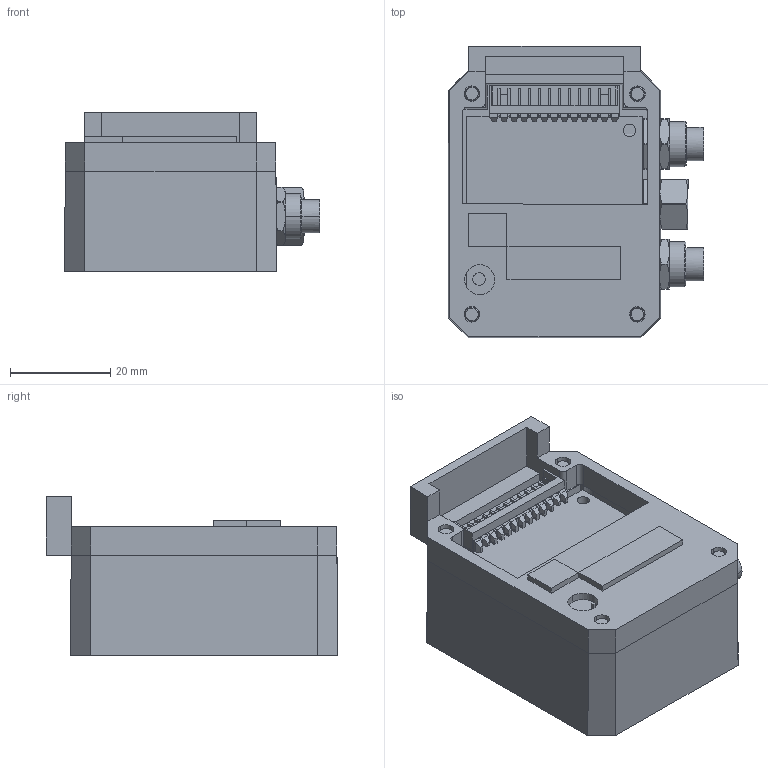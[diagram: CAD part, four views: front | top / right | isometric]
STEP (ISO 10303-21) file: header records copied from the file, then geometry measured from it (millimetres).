
FILE_DESCRIPTION (( 'STEP AP203' ), '1' );
FILE_NAME ('CM1CAN3.STEP', '2010-06-25T17:39:57', ( 'render' ), ( '' ), 'SwSTEP 2.0', 'SolidWorks 2009', '' );
FILE_SCHEMA (( 'CONFIG_CONTROL_DESIGN' ));
Length unit declared in the file: millimetre
Products named in the file (1): CM1CAN3
Bounding box: 50.89 x 58.19 x 31.7 mm (x, y, z)
Volume: 22008.7 mm3; surface area: 26777.6 mm2
Topology: 13 solids, 13 shells, 1659 faces, 4197 edges, 2648 vertices
Faces by surface type: plane 1246, cylinder 282, cone 111, bspline 16, sphere 4
Entity records: 49520 total; most frequent: CARTESIAN_POINT 9531, ORIENTED_EDGE 8338, DIRECTION 7965, EDGE_CURVE 4169, LINE 3393, VECTOR 3393, VERTEX_POINT 2646, AXIS2_PLACEMENT_3D 2286
